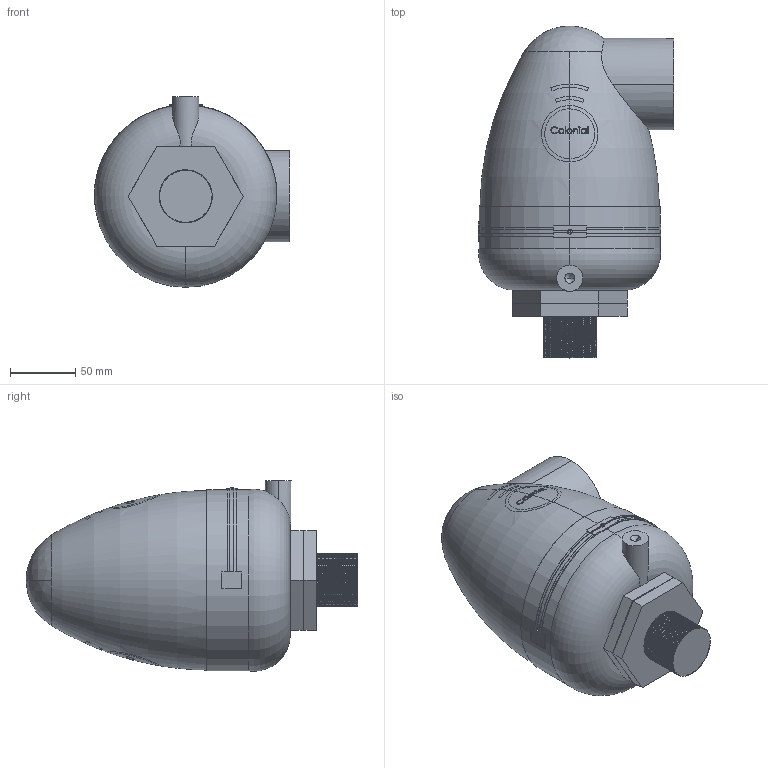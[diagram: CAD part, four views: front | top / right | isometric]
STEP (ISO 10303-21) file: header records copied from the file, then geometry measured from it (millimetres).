
FILE_DESCRIPTION (( 'STEP AP214' ), '1' );
FILE_NAME ('V20527CA.STEP', '2023-12-22T16:06:47', ( '' ), ( '' ), 'SwSTEP 2.0', 'SolidWorks 2021', '' );
FILE_SCHEMA (( 'AUTOMOTIVE_DESIGN' ));
Length unit declared in the file: inch
Products named in the file (1): V20527CA
Bounding box: 149.35 x 254 x 145.83 mm (x, y, z)
Volume: 676693 mm3; surface area: 192312.1 mm2
Topology: 3 solids, 3 shells, 261 faces, 777 edges, 546 vertices
Faces by surface type: cylinder 109, plane 87, torus 52, cone 6, sphere 4, bspline 3
Entity records: 16911 total; most frequent: CARTESIAN_POINT 10472, ORIENTED_EDGE 1550, DIRECTION 1093, EDGE_CURVE 775, VERTEX_POINT 546, AXIS2_PLACEMENT_3D 406, EDGE_LOOP 291, LINE 281
